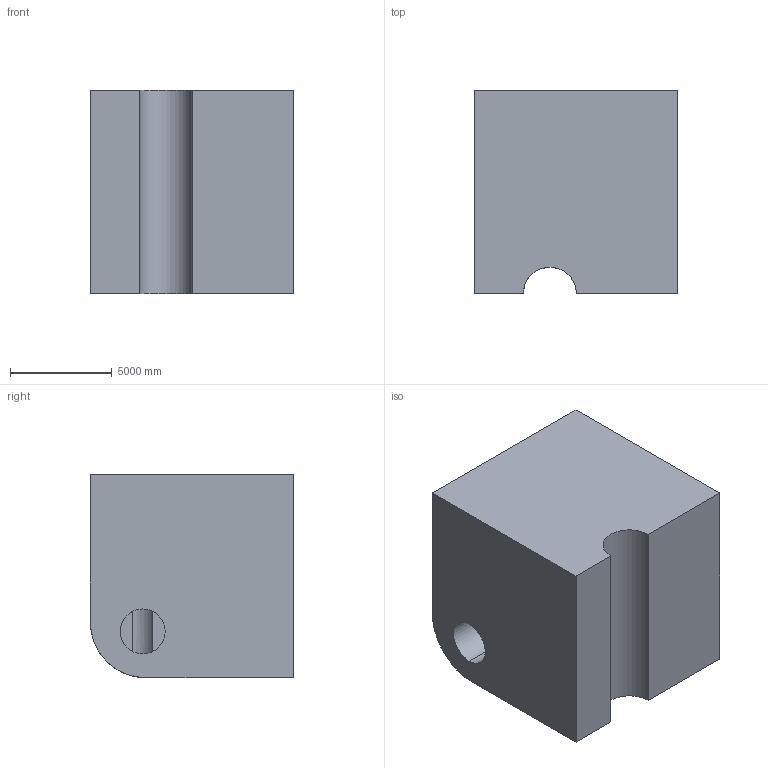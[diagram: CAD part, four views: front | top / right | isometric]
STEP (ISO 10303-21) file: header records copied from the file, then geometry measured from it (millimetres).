
FILE_DESCRIPTION (( 'STEP AP203' ), '1' );
FILE_NAME ('420.STEP', '2022-08-04T14:24:45', ( 'user' ), ( '' ), 'SwSTEP 2.0', 'SolidWorks 2021', '' );
FILE_SCHEMA (( 'CONFIG_CONTROL_DESIGN' ));
Length unit declared in the file: centimetre
Products named in the file (1): 420
Bounding box: 10000 x 10000 x 10000 mm (x, y, z)
Volume: 900905789268.1 mm3; surface area: 662975266.7 mm2
Topology: 1 solids, 1 shells, 21 faces, 60 edges, 40 vertices
Faces by surface type: plane 15, cylinder 6
Entity records: 907 total; most frequent: CARTESIAN_POINT 274, ORIENTED_EDGE 120, DIRECTION 110, EDGE_CURVE 60, LINE 42, VECTOR 42, VERTEX_POINT 40, AXIS2_PLACEMENT_3D 34
